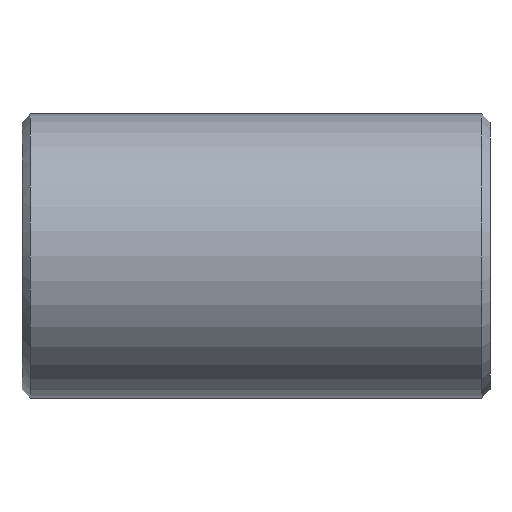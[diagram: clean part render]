
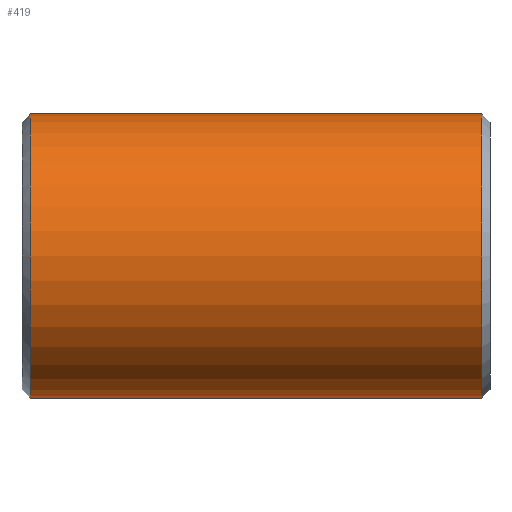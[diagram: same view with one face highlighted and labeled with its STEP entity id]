
A CAD part, front view. The second image highlights one B-rep face of the part: STEP entity #419.
In plain terms, the highlighted cylindrical face has radius 17 mm (diameter 34 mm), a partial arc.
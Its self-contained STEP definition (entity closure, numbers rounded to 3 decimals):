
#231=CARTESIAN_POINT('Vertex',(1.,0.,-17.)) ;
#238=CARTESIAN_POINT('Vertex',(1.,0.,17.)) ;
#267=CARTESIAN_POINT('Axis2P3D Location',(1.,0.,0.)) ;
#271=CARTESIAN_POINT('Vertex',(1.,-17.,0.)) ;
#274=CARTESIAN_POINT('Axis2P3D Location',(1.,0.,0.)) ;
#359=CARTESIAN_POINT('Line Origine',(56.,0.,17.)) ;
#363=CARTESIAN_POINT('Vertex',(55.,0.,17.)) ;
#377=CARTESIAN_POINT('Vertex',(55.,0.,-17.)) ;
#380=CARTESIAN_POINT('Line Origine',(56.,0.,-17.)) ;
#394=CARTESIAN_POINT('Axis2P3D Location',(56.,0.,0.)) ;
#399=CARTESIAN_POINT('Axis2P3D Location',(55.,0.,0.)) ;
#403=CARTESIAN_POINT('Vertex',(55.,-17.,0.)) ;
#406=CARTESIAN_POINT('Axis2P3D Location',(55.,0.,0.)) ;
#268=DIRECTION('Axis2P3D Direction',(1.,0.,-0.)) ;
#275=DIRECTION('Axis2P3D Direction',(1.,0.,-0.)) ;
#360=DIRECTION('Vector Direction',(-1.,0.,0.)) ;
#381=DIRECTION('Vector Direction',(-1.,0.,0.)) ;
#395=DIRECTION('Axis2P3D Direction',(-1.,-0.,-0.)) ;
#396=DIRECTION('Axis2P3D XDirection',(0.,0.,-1.)) ;
#400=DIRECTION('Axis2P3D Direction',(-1.,-0.,-0.)) ;
#407=DIRECTION('Axis2P3D Direction',(-1.,-0.,-0.)) ;
#269=AXIS2_PLACEMENT_3D('Circle Axis2P3D',#267,#268,$) ;
#276=AXIS2_PLACEMENT_3D('Circle Axis2P3D',#274,#275,$) ;
#397=AXIS2_PLACEMENT_3D('Cylinder Axis2P3D',#394,#395,#396) ;
#401=AXIS2_PLACEMENT_3D('Circle Axis2P3D',#399,#400,$) ;
#408=AXIS2_PLACEMENT_3D('Circle Axis2P3D',#406,#407,$) ;
#412=ORIENTED_EDGE('',*,*,#384,.T.) ;
#413=ORIENTED_EDGE('',*,*,#405,.F.) ;
#414=ORIENTED_EDGE('',*,*,#410,.F.) ;
#415=ORIENTED_EDGE('',*,*,#365,.T.) ;
#416=ORIENTED_EDGE('',*,*,#278,.T.) ;
#417=ORIENTED_EDGE('',*,*,#273,.T.) ;
#361=VECTOR('Line Direction',#360,1.) ;
#382=VECTOR('Line Direction',#381,1.) ;
#419=ADVANCED_FACE('352-25X56',(#418),#398,.T.) ;
#270=CIRCLE('generated circle',#269,17.) ;
#277=CIRCLE('generated circle',#276,17.) ;
#402=CIRCLE('generated circle',#401,17.) ;
#409=CIRCLE('generated circle',#408,17.) ;
#398=CYLINDRICAL_SURFACE('generated cylinder',#397,17.) ;
#273=EDGE_CURVE('',#272,#232,#270,.T.) ;
#278=EDGE_CURVE('',#239,#272,#277,.T.) ;
#365=EDGE_CURVE('',#364,#239,#362,.T.) ;
#384=EDGE_CURVE('',#232,#378,#383,.F.) ;
#405=EDGE_CURVE('',#404,#378,#402,.F.) ;
#410=EDGE_CURVE('',#364,#404,#409,.F.) ;
#411=EDGE_LOOP('',(#412,#413,#414,#415,#416,#417)) ;
#418=FACE_OUTER_BOUND('',#411,.T.) ;
#362=LINE('Line',#359,#361) ;
#383=LINE('Line',#380,#382) ;
#232=VERTEX_POINT('',#231) ;
#239=VERTEX_POINT('',#238) ;
#272=VERTEX_POINT('',#271) ;
#364=VERTEX_POINT('',#363) ;
#378=VERTEX_POINT('',#377) ;
#404=VERTEX_POINT('',#403) ;
